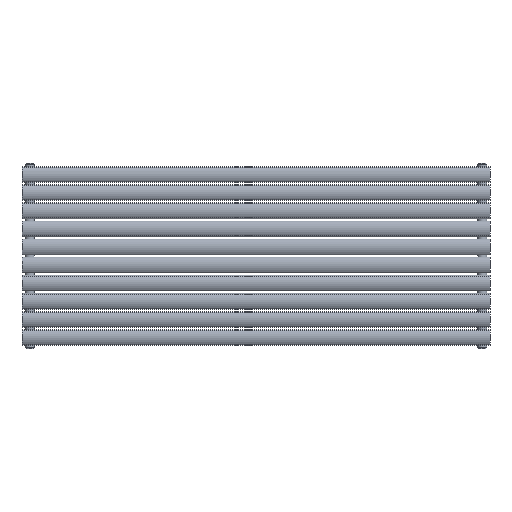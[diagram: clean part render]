
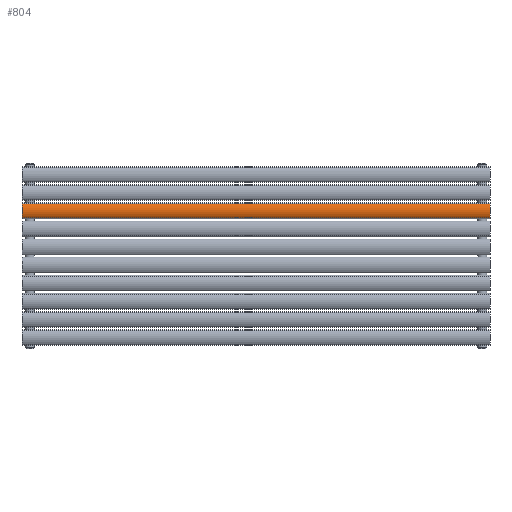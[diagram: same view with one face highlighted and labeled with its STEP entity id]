
A CAD part, top view. The second image highlights one B-rep face of the part: STEP entity #804.
In plain terms, the highlighted cylindrical face has radius 39.5 mm (diameter 79 mm), a partial arc.
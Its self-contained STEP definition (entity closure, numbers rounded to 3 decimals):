
#131=LINE('',#1982,#159);
#132=LINE('',#1985,#160);
#159=VECTOR('',#1026,10.);
#160=VECTOR('',#1029,10.);
#228=CIRCLE('',#892,39.5);
#231=CIRCLE('',#896,39.5);
#306=FACE_OUTER_BOUND('',#379,.T.);
#379=EDGE_LOOP('',(#668,#669,#670,#671));
#473=VERTEX_POINT('',#1973);
#474=VERTEX_POINT('',#1975);
#476=VERTEX_POINT('',#1981);
#477=VERTEX_POINT('',#1983);
#544=EDGE_CURVE('',#473,#474,#228,.T.);
#547=EDGE_CURVE('',#476,#473,#131,.T.);
#548=EDGE_CURVE('',#477,#476,#231,.T.);
#549=EDGE_CURVE('',#474,#477,#132,.T.);
#668=ORIENTED_EDGE('',*,*,#547,.F.);
#669=ORIENTED_EDGE('',*,*,#548,.F.);
#670=ORIENTED_EDGE('',*,*,#549,.F.);
#671=ORIENTED_EDGE('',*,*,#544,.F.);
#782=CYLINDRICAL_SURFACE('',#895,39.5);
#804=ADVANCED_FACE('',(#306),#782,.T.);
#892=AXIS2_PLACEMENT_3D('',#1976,#1018,#1019);
#895=AXIS2_PLACEMENT_3D('',#1980,#1024,#1025);
#896=AXIS2_PLACEMENT_3D('',#1984,#1027,#1028);
#1018=DIRECTION('center_axis',(0.,0.,-1.));
#1019=DIRECTION('ref_axis',(-0.552,-0.834,0.));
#1024=DIRECTION('center_axis',(0.,0.,1.));
#1025=DIRECTION('ref_axis',(-0.552,-0.834,0.));
#1026=DIRECTION('',(0.,0.,-1.));
#1027=DIRECTION('center_axis',(0.,0.,1.));
#1028=DIRECTION('ref_axis',(-0.552,-0.834,0.));
#1029=DIRECTION('',(0.,0.,1.));
#1973=CARTESIAN_POINT('',(21.816,-18.429,-750.));
#1975=CARTESIAN_POINT('',(-21.816,-18.429,-750.));
#1976=CARTESIAN_POINT('Origin',(0.,14.5,-750.));
#1980=CARTESIAN_POINT('Origin',(0.,14.5,0.));
#1981=CARTESIAN_POINT('',(21.816,-18.429,750.));
#1982=CARTESIAN_POINT('',(21.816,-18.429,0.));
#1983=CARTESIAN_POINT('',(-21.816,-18.429,750.));
#1984=CARTESIAN_POINT('Origin',(0.,14.5,750.));
#1985=CARTESIAN_POINT('',(-21.816,-18.429,0.));
